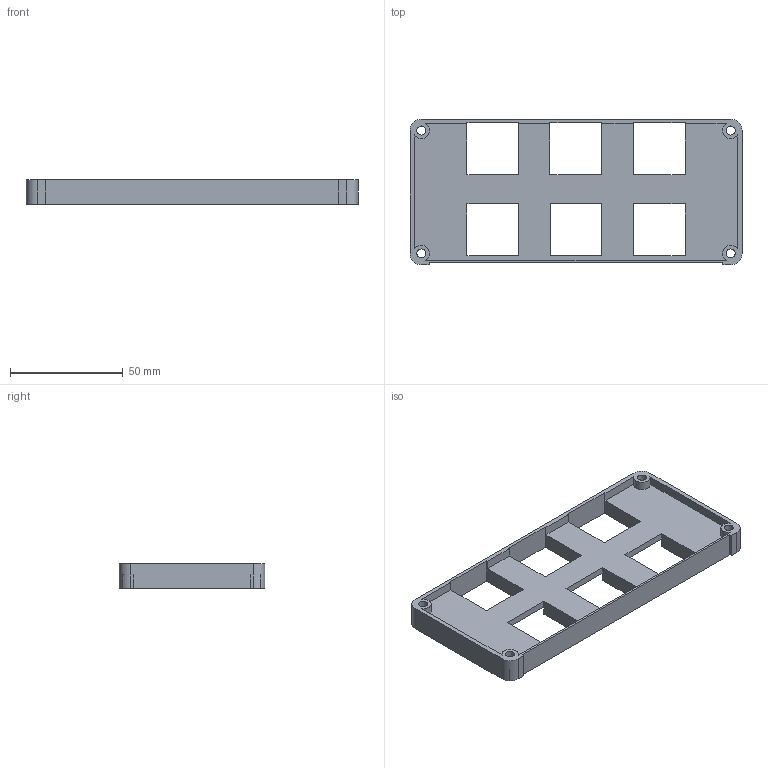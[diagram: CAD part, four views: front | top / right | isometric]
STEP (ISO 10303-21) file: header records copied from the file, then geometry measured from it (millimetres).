
FILE_DESCRIPTION(/* description */ (''),/* implementation_level */ '2;1');
FILE_NAME(/* name */ 'D:\3d\leaf_base_2.stp',/* time_stamp */ '2019-11-10T16:36:57-08:00',/* author */ ('RUARK'),/* organization */ (''),/* preprocessor_version */ 'ST-DEVELOPER v18',/* originating_system */ 'Autodesk Inventor 2020',/* authorisation */ '');
FILE_SCHEMA (('AUTOMOTIVE_DESIGN { 1 0 10303 214 3 1 1 }'));
Length unit declared in the file: millimetre
Products named in the file (1): leaf_base_2
Bounding box: 147.16 x 64.5 x 11 mm (x, y, z)
Volume: 37973.2 mm3; surface area: 23329.5 mm2
Topology: 1 solids, 1 shells, 93 faces, 330 edges, 287 vertices
Faces by surface type: plane 81, cylinder 12
Full cylindrical faces by diameter (mm): 4 x4
Entity records: 3371 total; most frequent: CARTESIAN_POINT 656, ORIENTED_EDGE 542, DIRECTION 508, EDGE_CURVE 271, LINE 246, VECTOR 246, VERTEX_POINT 177, AXIS2_PLACEMENT_3D 131
